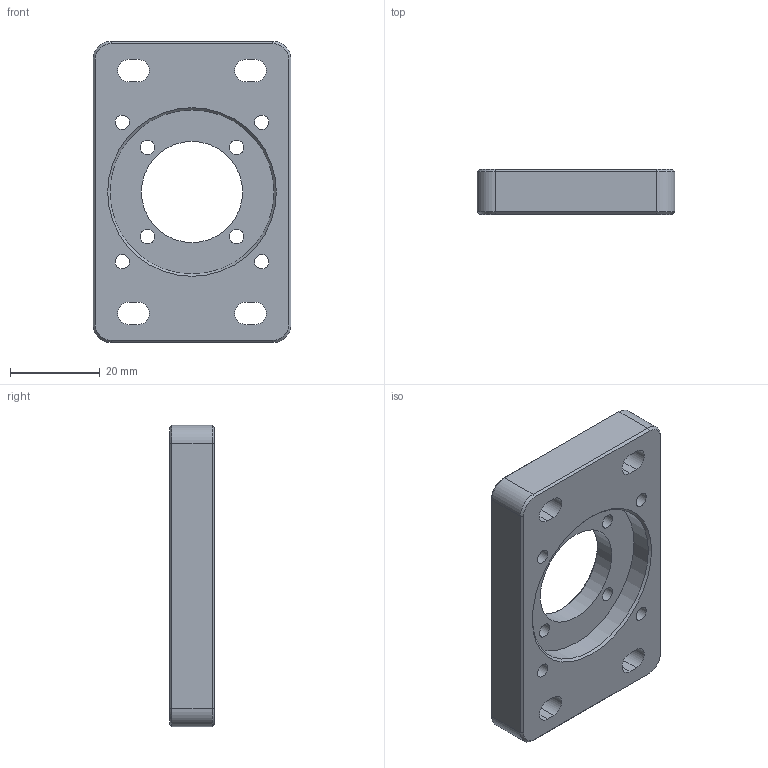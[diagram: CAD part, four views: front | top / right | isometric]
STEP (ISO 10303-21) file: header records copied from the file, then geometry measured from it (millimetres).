
FILE_DESCRIPTION(/* description */ (''),/* implementation_level */ '2;1');
FILE_NAME(/* name */ 'turntable-motor-plate-final.step',/* time_stamp */ '2025-06-23T21:21:39-04:00',/* author */ (''),/* organization */ (''),/* preprocessor_version */ 'ST-DEVELOPER v20.1',/* originating_system */ 'Autodesk Translation Framework v14.10.0.0',/* authorisation */ '');
FILE_SCHEMA (('AUTOMOTIVE_DESIGN { 1 0 10303 214 3 1 1 }'));
Length unit declared in the file: millimetre
Products named in the file (1): geared-plate
Bounding box: 44 x 10 x 67 mm (x, y, z)
Volume: 19321.7 mm3; surface area: 9211.7 mm2
Topology: 1 solids, 1 shells, 91 faces, 218 edges, 134 vertices
Faces by surface type: plane 43, cylinder 30, cone 18
Full cylindrical faces by diameter (mm): 3.2 x8, 22.5 x1, 36.5 x1
Entity records: 2710 total; most frequent: DIRECTION 480, CARTESIAN_POINT 444, ORIENTED_EDGE 436, EDGE_CURVE 218, AXIS2_PLACEMENT_3D 170, LINE 140, VECTOR 140, VERTEX_POINT 134
